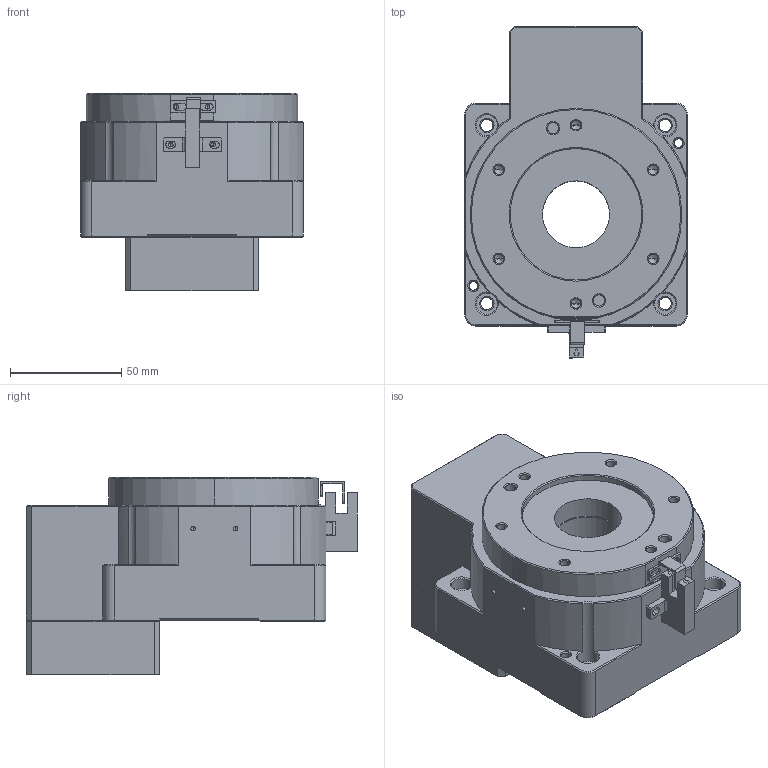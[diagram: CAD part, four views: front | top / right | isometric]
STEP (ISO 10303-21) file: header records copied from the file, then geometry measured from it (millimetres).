
FILE_DESCRIPTION (( 'STEP AP203' ), '1' );
FILE_NAME ('RTN100-8K-14-50-70-M4.STEP', '2024-05-21T10:02:19', ( '' ), ( '' ), 'SwSTEP 2.0', 'SolidWorks 2023', '' );
FILE_SCHEMA (( 'CONFIG_CONTROL_DESIGN' ));
Length unit declared in the file: millimetre
Products named in the file (1): RTN100-8K-14-50-70-M4
Bounding box: 100 x 148.9 x 88.5 mm (x, y, z)
Volume: 676679.3 mm3; surface area: 77828.2 mm2
Topology: 9 solids, 9 shells, 643 faces, 1555 edges, 937 vertices
Faces by surface type: plane 303, cylinder 173, cone 155, torus 12
Entity records: 18617 total; most frequent: CARTESIAN_POINT 3492, DIRECTION 3256, ORIENTED_EDGE 3010, EDGE_CURVE 1505, AXIS2_PLACEMENT_3D 1165, VERTEX_POINT 937, LINE 926, VECTOR 926
